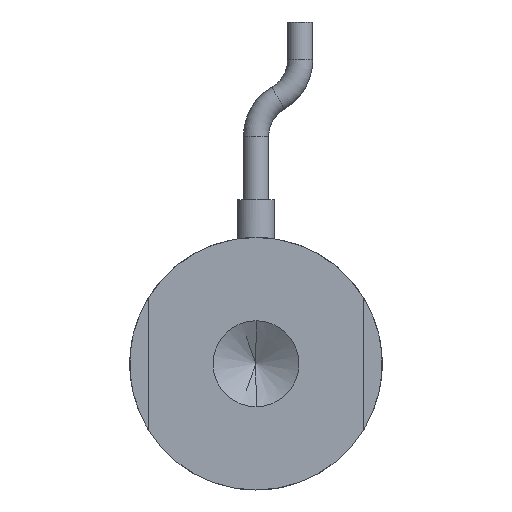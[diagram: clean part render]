
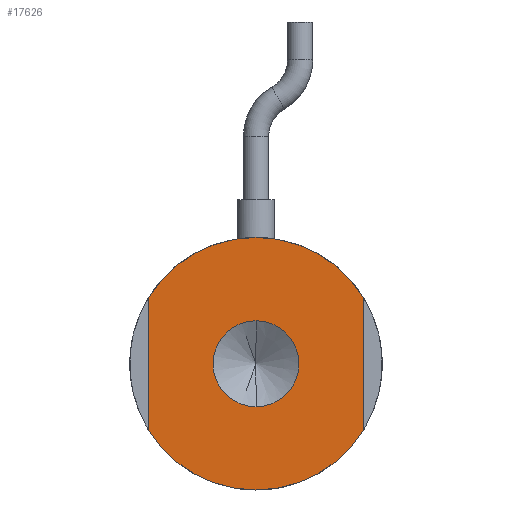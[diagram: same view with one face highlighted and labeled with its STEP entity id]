
A CAD part, front view. The second image highlights one B-rep face of the part: STEP entity #17626.
In plain terms, the highlighted planar face has unit normal (0, -1, 0).
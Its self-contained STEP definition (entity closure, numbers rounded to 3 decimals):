
#92 = EDGE_CURVE ( 'NONE', #4165, #18683, #23611, .T. ) ;
#106 = DIRECTION ( 'NONE',  ( 0., 0., -1. ) ) ;
#1302 = CARTESIAN_POINT ( 'NONE',  ( -8.5, 0., -5.268 ) ) ;
#3491 = CARTESIAN_POINT ( 'NONE',  ( -8.5, 0., 5.268 ) ) ;
#4165 = VERTEX_POINT ( 'NONE', #4527 ) ;
#4275 = DIRECTION ( 'NONE',  ( 0., 1., 0. ) ) ;
#4527 = CARTESIAN_POINT ( 'NONE',  ( 0., 0., 10. ) ) ;
#4627 = EDGE_CURVE ( 'NONE', #41628, #35029, #17495, .T. ) ;
#5130 = AXIS2_PLACEMENT_3D ( 'NONE', #9724, #34180, #13266 ) ;
#5421 = EDGE_CURVE ( 'NONE', #18683, #19873, #15763, .T. ) ;
#6017 = DIRECTION ( 'NONE',  ( 0., 1., 0. ) ) ;
#7063 = ORIENTED_EDGE ( 'NONE', *, *, #23362, .F. ) ;
#7501 = AXIS2_PLACEMENT_3D ( 'NONE', #27091, #6017, #30593 ) ;
#7847 = ORIENTED_EDGE ( 'NONE', *, *, #35540, .F. ) ;
#8589 = VECTOR ( 'NONE', #10373, 1000. ) ;
#9279 = CARTESIAN_POINT ( 'NONE',  ( 0., 0., 0. ) ) ;
#9724 = CARTESIAN_POINT ( 'NONE',  ( 0., 0., 0. ) ) ;
#10373 = DIRECTION ( 'NONE',  ( 0., 0., -1. ) ) ;
#10670 = ORIENTED_EDGE ( 'NONE', *, *, #36872, .F. ) ;
#12837 = DIRECTION ( 'NONE',  ( 0., 0., -1. ) ) ;
#13074 = AXIS2_PLACEMENT_3D ( 'NONE', #23681, #23688, #23600 ) ;
#13141 = AXIS2_PLACEMENT_3D ( 'NONE', #9279, #33764, #12837 ) ;
#13266 = DIRECTION ( 'NONE',  ( 0., 0., 1. ) ) ;
#14553 = EDGE_LOOP ( 'NONE', ( #7063, #10670, #7847, #30369, #24308, #34470 ) ) ;
#14885 = CIRCLE ( 'NONE', #5130, 10. ) ;
#15516 = CARTESIAN_POINT ( 'NONE',  ( 0., 0., -10. ) ) ;
#15763 = LINE ( 'NONE', #41618, #8589 ) ;
#16515 = PLANE ( 'NONE',  #7501 ) ;
#16645 = VERTEX_POINT ( 'NONE', #15516 ) ;
#16773 = CIRCLE ( 'NONE', #41824, 3.4 ) ;
#17495 = CIRCLE ( 'NONE', #13141, 3.4 ) ;
#17626 = ADVANCED_FACE ( 'NONE', ( #33445, #42691 ), #16515, .F. ) ;
#17660 = EDGE_CURVE ( 'NONE', #31206, #4165, #14885, .T. ) ;
#18627 = CARTESIAN_POINT ( 'NONE',  ( 0., 0., 0. ) ) ;
#18683 = VERTEX_POINT ( 'NONE', #22375 ) ;
#19873 = VERTEX_POINT ( 'NONE', #36668 ) ;
#20516 = EDGE_LOOP ( 'NONE', ( #20833, #22176 ) ) ;
#20628 = VECTOR ( 'NONE', #45256, 1000. ) ;
#20833 = ORIENTED_EDGE ( 'NONE', *, *, #43381, .F. ) ;
#21165 = DIRECTION ( 'NONE',  ( 0., -1., 0. ) ) ;
#21994 = AXIS2_PLACEMENT_3D ( 'NONE', #18627, #42945, #22116 ) ;
#22116 = DIRECTION ( 'NONE',  ( 0., 0., 1. ) ) ;
#22176 = ORIENTED_EDGE ( 'NONE', *, *, #4627, .F. ) ;
#22375 = CARTESIAN_POINT ( 'NONE',  ( 8.5, 0., 5.268 ) ) ;
#23362 = EDGE_CURVE ( 'NONE', #44645, #31206, #39082, .T. ) ;
#23600 = DIRECTION ( 'NONE',  ( 0., 0., 1. ) ) ;
#23611 = CIRCLE ( 'NONE', #13074, 10. ) ;
#23681 = CARTESIAN_POINT ( 'NONE',  ( 0., 0., 0. ) ) ;
#23688 = DIRECTION ( 'NONE',  ( 0., 1., 0. ) ) ;
#24308 = ORIENTED_EDGE ( 'NONE', *, *, #92, .F. ) ;
#25324 = CARTESIAN_POINT ( 'NONE',  ( 0., 0., 0. ) ) ;
#27091 = CARTESIAN_POINT ( 'NONE',  ( 0., 0., 0. ) ) ;
#28837 = DIRECTION ( 'NONE',  ( 0., 0., 1. ) ) ;
#30369 = ORIENTED_EDGE ( 'NONE', *, *, #5421, .F. ) ;
#30593 = DIRECTION ( 'NONE',  ( 0., 0., 1. ) ) ;
#31206 = VERTEX_POINT ( 'NONE', #3491 ) ;
#33445 = FACE_BOUND ( 'NONE', #20516, .T. ) ;
#33764 = DIRECTION ( 'NONE',  ( 0., -1., 0. ) ) ;
#34180 = DIRECTION ( 'NONE',  ( 0., 1., 0. ) ) ;
#34268 = AXIS2_PLACEMENT_3D ( 'NONE', #25324, #4275, #28837 ) ;
#34470 = ORIENTED_EDGE ( 'NONE', *, *, #17660, .F. ) ;
#35029 = VERTEX_POINT ( 'NONE', #35264 ) ;
#35264 = CARTESIAN_POINT ( 'NONE',  ( 0., 0., -3.4 ) ) ;
#35540 = EDGE_CURVE ( 'NONE', #19873, #16645, #38300, .T. ) ;
#36668 = CARTESIAN_POINT ( 'NONE',  ( 8.5, 0., -5.268 ) ) ;
#36872 = EDGE_CURVE ( 'NONE', #16645, #44645, #38254, .T. ) ;
#38254 = CIRCLE ( 'NONE', #34268, 10. ) ;
#38300 = CIRCLE ( 'NONE', #21994, 10. ) ;
#39082 = LINE ( 'NONE', #41715, #20628 ) ;
#41618 = CARTESIAN_POINT ( 'NONE',  ( 8.5, 0., 0. ) ) ;
#41628 = VERTEX_POINT ( 'NONE', #42160 ) ;
#41715 = CARTESIAN_POINT ( 'NONE',  ( -8.5, 0., 0. ) ) ;
#41824 = AXIS2_PLACEMENT_3D ( 'NONE', #41962, #21165, #106 ) ;
#41962 = CARTESIAN_POINT ( 'NONE',  ( 0., 0., 0. ) ) ;
#42160 = CARTESIAN_POINT ( 'NONE',  ( 0., 0., 3.4 ) ) ;
#42691 = FACE_OUTER_BOUND ( 'NONE', #14553, .T. ) ;
#42945 = DIRECTION ( 'NONE',  ( 0., 1., 0. ) ) ;
#43381 = EDGE_CURVE ( 'NONE', #35029, #41628, #16773, .T. ) ;
#44645 = VERTEX_POINT ( 'NONE', #1302 ) ;
#45256 = DIRECTION ( 'NONE',  ( 0., 0., 1. ) ) ;
